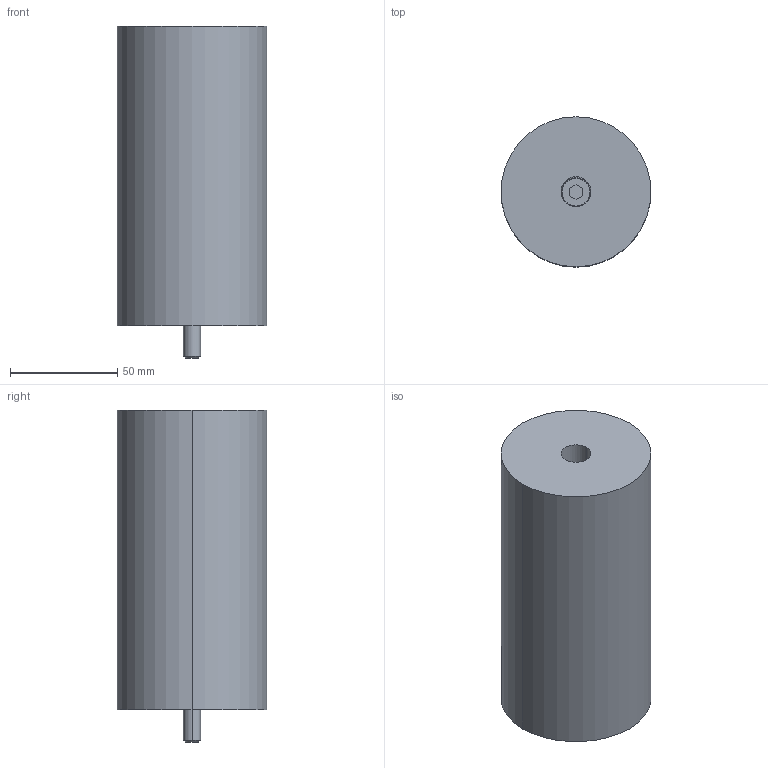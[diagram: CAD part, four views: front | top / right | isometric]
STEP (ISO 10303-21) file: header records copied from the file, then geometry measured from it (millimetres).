
FILE_DESCRIPTION(/* description */ (''),/* implementation_level */ '2;1');
FILE_NAME(/* name */ '3d_esbt70-140_06998_r00.stp',/* time_stamp */ '2011-01-10T14:15:40+09:00',/* author */ ('MISUMI'),/* organization */ (''),/* preprocessor_version */ 'ST-DEVELOPER v11',/* originating_system */ 'UGS - NX 5.0',/* authorisation */ '');
FILE_SCHEMA (('CONFIG_CONTROL_DESIGN'));
Length unit declared in the file: millimetre
Products named in the file (1): 3d_esbt70-140_06998_r00
Bounding box: 70 x 70 x 155 mm (x, y, z)
Volume: 524363.7 mm3; surface area: 48747.8 mm2
Topology: 3 solids, 3 shells, 35 faces, 72 edges, 46 vertices
Faces by surface type: plane 15, cylinder 14, cone 6
Entity records: 1022 total; most frequent: DIRECTION 178, CARTESIAN_POINT 154, ORIENTED_EDGE 144, EDGE_CURVE 72, AXIS2_PLACEMENT_3D 70, VERTEX_POINT 46, EDGE_LOOP 42, LINE 38
